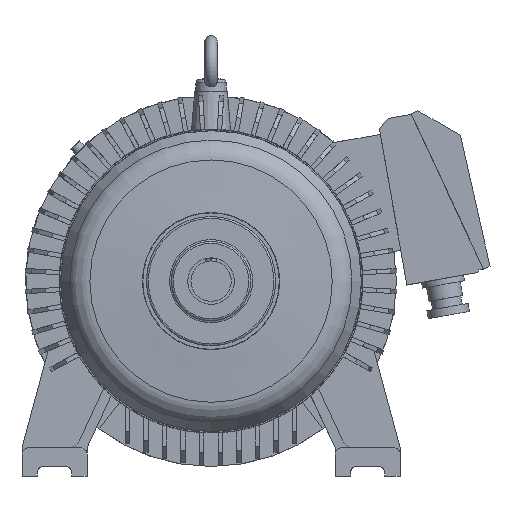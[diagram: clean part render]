
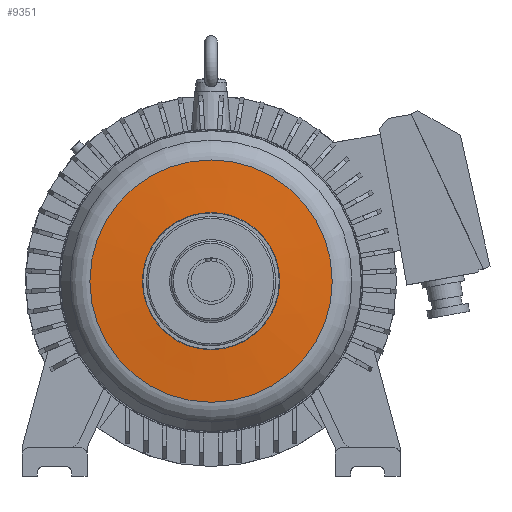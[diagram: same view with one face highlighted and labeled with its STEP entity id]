
A CAD part, front view. The second image highlights one B-rep face of the part: STEP entity #9351.
In plain terms, the highlighted conical face has half-angle 86 degrees and reference radius 110.716 mm.
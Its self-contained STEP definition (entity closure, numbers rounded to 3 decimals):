
#39=CONICAL_SURFACE('',#10063,110.716,1.501);
#669=CIRCLE('',#10062,110.716);
#670=CIRCLE('',#10064,195.492);
#1472=ORIENTED_EDGE('',*,*,#4096,.T.);
#1473=ORIENTED_EDGE('',*,*,#4095,.F.);
#4095=EDGE_CURVE('',#5382,#5382,#669,.T.);
#4096=EDGE_CURVE('',#5383,#5383,#670,.T.);
#5382=VERTEX_POINT('',#16911);
#5383=VERTEX_POINT('',#16914);
#8136=EDGE_LOOP('',(#1472));
#8137=EDGE_LOOP('',(#1473));
#8723=FACE_BOUND('',#8136,.T.);
#8724=FACE_BOUND('',#8137,.T.);
#9351=ADVANCED_FACE('',(#8723,#8724),#39,.T.);
#10062=AXIS2_PLACEMENT_3D('',#16910,#11463,#11464);
#10063=AXIS2_PLACEMENT_3D('',#16912,#11465,#11466);
#10064=AXIS2_PLACEMENT_3D('',#16913,#11467,#11468);
#11463=DIRECTION('',(0.,-1.,0.));
#11464=DIRECTION('',(1.,0.,0.));
#11465=DIRECTION('',(0.,1.,0.));
#11466=DIRECTION('',(-1.,0.,0.));
#11467=DIRECTION('',(0.,-1.,0.));
#11468=DIRECTION('',(1.,0.,0.));
#16910=CARTESIAN_POINT('',(0.,187.566,0.));
#16911=CARTESIAN_POINT('',(110.716,187.566,0.));
#16912=CARTESIAN_POINT('',(0.,187.566,0.));
#16913=CARTESIAN_POINT('',(0.,193.494,0.));
#16914=CARTESIAN_POINT('',(195.492,193.494,0.));
